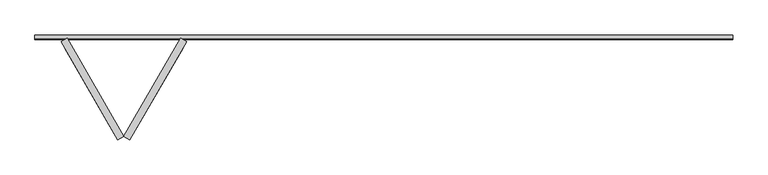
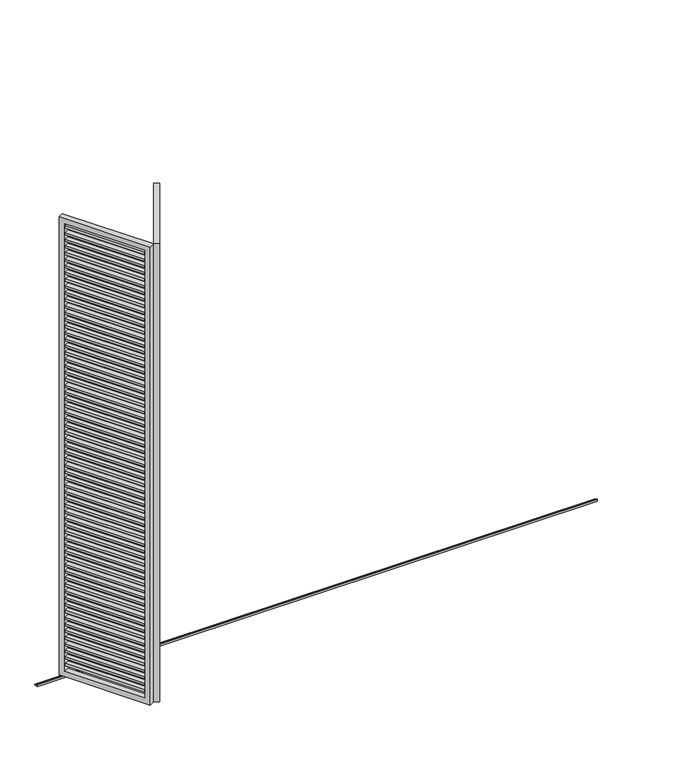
"""IFC4 building model written with IfcOpenShell, lengths in millimetres: proxy geometry, Renson_Amani_Loggia_Plano_Folding : Renson_Amani_Loggia_Plano_Folding."""

from ifc_helpers import new_model, si_unit, frame, origin, place, context, project, spatial, polyline, outline, extrude, source, transform, mapped, element, save


def generic_models_0fea99e4(model_context):
    return source(origin(), model_context, "Body", "SweptSolid", [
        extrude(outline(polyline([(667.6721051, 546.5254963), (696.2509434, 530.0254963), (411.2509434, 36.3910162), (382.6721051, 52.8910162), (667.6721051, 546.5254963)])), frame((0.0, 0.0, 2877.0), z_axis=(0.0, 0.0, 1.0), x_axis=(1.0, 0.0, 0.0)), (0.0, 0.0, 1.0), 16.0),
        extrude(outline(polyline([(667.6721051, 546.5254963), (696.2509434, 530.0254963), (411.2509434, 36.3910162), (382.6721051, 52.8910162), (667.6721051, 546.5254963)])), frame((0.0, 0.0, 2827.0), z_axis=(0.0, 0.0, 1.0), x_axis=(1.0, 0.0, 0.0)), (0.0, 0.0, 1.0), 16.0),
        extrude(outline(polyline([(667.6721051, 546.5254963), (696.2509434, 530.0254963), (411.2509434, 36.3910162), (382.6721051, 52.8910162), (667.6721051, 546.5254963)])), frame((0.0, 0.0, 2777.0), z_axis=(0.0, 0.0, 1.0), x_axis=(1.0, 0.0, 0.0)), (0.0, 0.0, 1.0), 16.0),
        extrude(outline(polyline([(667.6721051, 546.5254963), (696.2509434, 530.0254963), (411.2509434, 36.3910162), (382.6721051, 52.8910162), (667.6721051, 546.5254963)])), frame((0.0, 0.0, 2727.0), z_axis=(0.0, 0.0, 1.0), x_axis=(1.0, 0.0, 0.0)), (0.0, 0.0, 1.0), 16.0),
        extrude(outline(polyline([(667.6721051, 546.5254963), (696.2509434, 530.0254963), (411.2509434, 36.3910162), (382.6721051, 52.8910162), (667.6721051, 546.5254963)])), frame((0.0, 0.0, 2677.0), z_axis=(0.0, 0.0, 1.0), x_axis=(1.0, 0.0, 0.0)), (0.0, 0.0, 1.0), 16.0),
        extrude(outline(polyline([(667.6721051, 546.5254963), (696.2509434, 530.0254963), (411.2509434, 36.3910162), (382.6721051, 52.8910162), (667.6721051, 546.5254963)])), frame((0.0, 0.0, 2627.0), z_axis=(0.0, 0.0, 1.0), x_axis=(1.0, 0.0, 0.0)), (0.0, 0.0, 1.0), 16.0),
        extrude(outline(polyline([(667.6721051, 546.5254963), (696.2509434, 530.0254963), (411.2509434, 36.3910162), (382.6721051, 52.8910162), (667.6721051, 546.5254963)])), frame((0.0, 0.0, 2577.0), z_axis=(0.0, 0.0, 1.0), x_axis=(1.0, 0.0, 0.0)), (0.0, 0.0, 1.0), 16.0),
        extrude(outline(polyline([(667.6721051, 546.5254963), (696.2509434, 530.0254963), (411.2509434, 36.3910162), (382.6721051, 52.8910162), (667.6721051, 546.5254963)])), frame((0.0, 0.0, 2527.0), z_axis=(0.0, 0.0, 1.0), x_axis=(1.0, 0.0, 0.0)), (0.0, 0.0, 1.0), 16.0),
        extrude(outline(polyline([(667.6721051, 546.5254963), (696.2509434, 530.0254963), (411.2509434, 36.3910162), (382.6721051, 52.8910162), (667.6721051, 546.5254963)])), frame((0.0, 0.0, 2477.0), z_axis=(0.0, 0.0, 1.0), x_axis=(1.0, 0.0, 0.0)), (0.0, 0.0, 1.0), 16.0),
        extrude(outline(polyline([(667.6721051, 546.5254963), (696.2509434, 530.0254963), (411.2509434, 36.3910162), (382.6721051, 52.8910162), (667.6721051, 546.5254963)])), frame((0.0, 0.0, 2427.0), z_axis=(0.0, 0.0, 1.0), x_axis=(1.0, 0.0, 0.0)), (0.0, 0.0, 1.0), 16.0),
        extrude(outline(polyline([(667.6721051, 546.5254963), (696.2509434, 530.0254963), (411.2509434, 36.3910162), (382.6721051, 52.8910162), (667.6721051, 546.5254963)])), frame((0.0, 0.0, 2377.0), z_axis=(0.0, 0.0, 1.0), x_axis=(1.0, 0.0, 0.0)), (0.0, 0.0, 1.0), 16.0),
        extrude(outline(polyline([(667.6721051, 546.5254963), (696.2509434, 530.0254963), (411.2509434, 36.3910162), (382.6721051, 52.8910162), (667.6721051, 546.5254963)])), frame((0.0, 0.0, 2327.0), z_axis=(0.0, 0.0, 1.0), x_axis=(1.0, 0.0, 0.0)), (0.0, 0.0, 1.0), 16.0),
        extrude(outline(polyline([(667.6721051, 546.5254963), (696.2509434, 530.0254963), (411.2509434, 36.3910162), (382.6721051, 52.8910162), (667.6721051, 546.5254963)])), frame((0.0, 0.0, 2277.0), z_axis=(0.0, 0.0, 1.0), x_axis=(1.0, 0.0, 0.0)), (0.0, 0.0, 1.0), 16.0),
        extrude(outline(polyline([(667.6721051, 546.5254963), (696.2509434, 530.0254963), (411.2509434, 36.3910162), (382.6721051, 52.8910162), (667.6721051, 546.5254963)])), frame((0.0, 0.0, 2227.0), z_axis=(0.0, 0.0, 1.0), x_axis=(1.0, 0.0, 0.0)), (0.0, 0.0, 1.0), 16.0),
        extrude(outline(polyline([(667.6721051, 546.5254963), (696.2509434, 530.0254963), (411.2509434, 36.3910162), (382.6721051, 52.8910162), (667.6721051, 546.5254963)])), frame((0.0, 0.0, 2177.0), z_axis=(0.0, 0.0, 1.0), x_axis=(1.0, 0.0, 0.0)), (0.0, 0.0, 1.0), 16.0),
        extrude(outline(polyline([(667.6721051, 546.5254963), (696.2509434, 530.0254963), (411.2509434, 36.3910162), (382.6721051, 52.8910162), (667.6721051, 546.5254963)])), frame((0.0, 0.0, 2127.0), z_axis=(0.0, 0.0, 1.0), x_axis=(1.0, 0.0, 0.0)), (0.0, 0.0, 1.0), 16.0),
        extrude(outline(polyline([(667.6721051, 546.5254963), (696.2509434, 530.0254963), (411.2509434, 36.3910162), (382.6721051, 52.8910162), (667.6721051, 546.5254963)])), frame((0.0, 0.0, 2077.0), z_axis=(0.0, 0.0, 1.0), x_axis=(1.0, 0.0, 0.0)), (0.0, 0.0, 1.0), 16.0),
        extrude(outline(polyline([(667.6721051, 546.5254963), (696.2509434, 530.0254963), (411.2509434, 36.3910162), (382.6721051, 52.8910162), (667.6721051, 546.5254963)])), frame((0.0, 0.0, 2027.0), z_axis=(0.0, 0.0, 1.0), x_axis=(1.0, 0.0, 0.0)), (0.0, 0.0, 1.0), 16.0),
        extrude(outline(polyline([(667.6721051, 546.5254963), (696.2509434, 530.0254963), (411.2509434, 36.3910162), (382.6721051, 52.8910162), (667.6721051, 546.5254963)])), frame((0.0, 0.0, 1977.0), z_axis=(0.0, 0.0, 1.0), x_axis=(1.0, 0.0, 0.0)), (0.0, 0.0, 1.0), 16.0),
        extrude(outline(polyline([(667.6721051, 546.5254963), (696.2509434, 530.0254963), (411.2509434, 36.3910162), (382.6721051, 52.8910162), (667.6721051, 546.5254963)])), frame((0.0, 0.0, 1927.0), z_axis=(0.0, 0.0, 1.0), x_axis=(1.0, 0.0, 0.0)), (0.0, 0.0, 1.0), 16.0),
        extrude(outline(polyline([(667.6721051, 546.5254963), (696.2509434, 530.0254963), (411.2509434, 36.3910162), (382.6721051, 52.8910162), (667.6721051, 546.5254963)])), frame((0.0, 0.0, 1877.0), z_axis=(0.0, 0.0, 1.0), x_axis=(1.0, 0.0, 0.0)), (0.0, 0.0, 1.0), 16.0),
        extrude(outline(polyline([(667.6721051, 546.5254963), (696.2509434, 530.0254963), (411.2509434, 36.3910162), (382.6721051, 52.8910162), (667.6721051, 546.5254963)])), frame((0.0, 0.0, 1827.0), z_axis=(0.0, 0.0, 1.0), x_axis=(1.0, 0.0, 0.0)), (0.0, 0.0, 1.0), 16.0),
        extrude(outline(polyline([(667.6721051, 546.5254963), (696.2509434, 530.0254963), (411.2509434, 36.3910162), (382.6721051, 52.8910162), (667.6721051, 546.5254963)])), frame((0.0, 0.0, 1777.0), z_axis=(0.0, 0.0, 1.0), x_axis=(1.0, 0.0, 0.0)), (0.0, 0.0, 1.0), 16.0),
        extrude(outline(polyline([(667.6721051, 546.5254963), (696.2509434, 530.0254963), (411.2509434, 36.3910162), (382.6721051, 52.8910162), (667.6721051, 546.5254963)])), frame((0.0, 0.0, 1727.0), z_axis=(0.0, 0.0, 1.0), x_axis=(1.0, 0.0, 0.0)), (0.0, 0.0, 1.0), 16.0),
        extrude(outline(polyline([(667.6721051, 546.5254963), (696.2509434, 530.0254963), (411.2509434, 36.3910162), (382.6721051, 52.8910162), (667.6721051, 546.5254963)])), frame((0.0, 0.0, 1677.0), z_axis=(0.0, 0.0, 1.0), x_axis=(1.0, 0.0, 0.0)), (0.0, 0.0, 1.0), 16.0),
        extrude(outline(polyline([(667.6721051, 546.5254963), (696.2509434, 530.0254963), (411.2509434, 36.3910162), (382.6721051, 52.8910162), (667.6721051, 546.5254963)])), frame((0.0, 0.0, 1627.0), z_axis=(0.0, 0.0, 1.0), x_axis=(1.0, 0.0, 0.0)), (0.0, 0.0, 1.0), 16.0),
        extrude(outline(polyline([(667.6721051, 546.5254963), (696.2509434, 530.0254963), (411.2509434, 36.3910162), (382.6721051, 52.8910162), (667.6721051, 546.5254963)])), frame((0.0, 0.0, 1577.0), z_axis=(0.0, 0.0, 1.0), x_axis=(1.0, 0.0, 0.0)), (0.0, 0.0, 1.0), 16.0),
        extrude(outline(polyline([(667.6721051, 546.5254963), (696.2509434, 530.0254963), (411.2509434, 36.3910162), (382.6721051, 52.8910162), (667.6721051, 546.5254963)])), frame((0.0, 0.0, 1527.0), z_axis=(0.0, 0.0, 1.0), x_axis=(1.0, 0.0, 0.0)), (0.0, 0.0, 1.0), 16.0),
        extrude(outline(polyline([(667.6721051, 546.5254963), (696.2509434, 530.0254963), (411.2509434, 36.3910162), (382.6721051, 52.8910162), (667.6721051, 546.5254963)])), frame((0.0, 0.0, 1477.0), z_axis=(0.0, 0.0, 1.0), x_axis=(1.0, 0.0, 0.0)), (0.0, 0.0, 1.0), 16.0),
        extrude(outline(polyline([(667.6721051, 546.5254963), (696.2509434, 530.0254963), (411.2509434, 36.3910162), (382.6721051, 52.8910162), (667.6721051, 546.5254963)])), frame((0.0, 0.0, 1427.0), z_axis=(0.0, 0.0, 1.0), x_axis=(1.0, 0.0, 0.0)), (0.0, 0.0, 1.0), 16.0),
        extrude(outline(polyline([(667.6721051, 546.5254963), (696.2509434, 530.0254963), (411.2509434, 36.3910162), (382.6721051, 52.8910162), (667.6721051, 546.5254963)])), frame((0.0, 0.0, 1377.0), z_axis=(0.0, 0.0, 1.0), x_axis=(1.0, 0.0, 0.0)), (0.0, 0.0, 1.0), 16.0),
        extrude(outline(polyline([(667.6721051, 546.5254963), (696.2509434, 530.0254963), (411.2509434, 36.3910162), (382.6721051, 52.8910162), (667.6721051, 546.5254963)])), frame((0.0, 0.0, 1327.0), z_axis=(0.0, 0.0, 1.0), x_axis=(1.0, 0.0, 0.0)), (0.0, 0.0, 1.0), 16.0),
        extrude(outline(polyline([(667.6721051, 546.5254963), (696.2509434, 530.0254963), (411.2509434, 36.3910162), (382.6721051, 52.8910162), (667.6721051, 546.5254963)])), frame((0.0, 0.0, 1277.0), z_axis=(0.0, 0.0, 1.0), x_axis=(1.0, 0.0, 0.0)), (0.0, 0.0, 1.0), 16.0),
        extrude(outline(polyline([(667.6721051, 546.5254963), (696.2509434, 530.0254963), (411.2509434, 36.3910162), (382.6721051, 52.8910162), (667.6721051, 546.5254963)])), frame((0.0, 0.0, 1227.0), z_axis=(0.0, 0.0, 1.0), x_axis=(1.0, 0.0, 0.0)), (0.0, 0.0, 1.0), 16.0),
        extrude(outline(polyline([(667.6721051, 546.5254963), (696.2509434, 530.0254963), (411.2509434, 36.3910162), (382.6721051, 52.8910162), (667.6721051, 546.5254963)])), frame((0.0, 0.0, 1177.0), z_axis=(0.0, 0.0, 1.0), x_axis=(1.0, 0.0, 0.0)), (0.0, 0.0, 1.0), 16.0),
        extrude(outline(polyline([(667.6721051, 546.5254963), (696.2509434, 530.0254963), (411.2509434, 36.3910162), (382.6721051, 52.8910162), (667.6721051, 546.5254963)])), frame((0.0, 0.0, 1127.0), z_axis=(0.0, 0.0, 1.0), x_axis=(1.0, 0.0, 0.0)), (0.0, 0.0, 1.0), 16.0),
        extrude(outline(polyline([(667.6721051, 546.5254963), (696.2509434, 530.0254963), (411.2509434, 36.3910162), (382.6721051, 52.8910162), (667.6721051, 546.5254963)])), frame((0.0, 0.0, 1077.0), z_axis=(0.0, 0.0, 1.0), x_axis=(1.0, 0.0, 0.0)), (0.0, 0.0, 1.0), 16.0),
        extrude(outline(polyline([(667.6721051, 546.5254963), (696.2509434, 530.0254963), (411.2509434, 36.3910162), (382.6721051, 52.8910162), (667.6721051, 546.5254963)])), frame((0.0, 0.0, 1027.0), z_axis=(0.0, 0.0, 1.0), x_axis=(1.0, 0.0, 0.0)), (0.0, 0.0, 1.0), 16.0),
        extrude(outline(polyline([(667.6721051, 546.5254963), (696.2509434, 530.0254963), (411.2509434, 36.3910162), (382.6721051, 52.8910162), (667.6721051, 546.5254963)])), frame((0.0, 0.0, 977.0), z_axis=(0.0, 0.0, 1.0), x_axis=(1.0, 0.0, 0.0)), (0.0, 0.0, 1.0), 16.0),
        extrude(outline(polyline([(667.6721051, 546.5254963), (696.2509434, 530.0254963), (411.2509434, 36.3910162), (382.6721051, 52.8910162), (667.6721051, 546.5254963)])), frame((0.0, 0.0, 927.0), z_axis=(0.0, 0.0, 1.0), x_axis=(1.0, 0.0, 0.0)), (0.0, 0.0, 1.0), 16.0),
        extrude(outline(polyline([(667.6721051, 546.5254963), (696.2509434, 530.0254963), (411.2509434, 36.3910162), (382.6721051, 52.8910162), (667.6721051, 546.5254963)])), frame((0.0, 0.0, 877.0), z_axis=(0.0, 0.0, 1.0), x_axis=(1.0, 0.0, 0.0)), (0.0, 0.0, 1.0), 16.0),
        extrude(outline(polyline([(667.6721051, 546.5254963), (696.2509434, 530.0254963), (411.2509434, 36.3910162), (382.6721051, 52.8910162), (667.6721051, 546.5254963)])), frame((0.0, 0.0, 827.0), z_axis=(0.0, 0.0, 1.0), x_axis=(1.0, 0.0, 0.0)), (0.0, 0.0, 1.0), 16.0),
        extrude(outline(polyline([(667.6721051, 546.5254963), (696.2509434, 530.0254963), (411.2509434, 36.3910162), (382.6721051, 52.8910162), (667.6721051, 546.5254963)])), frame((0.0, 0.0, 777.0), z_axis=(0.0, 0.0, 1.0), x_axis=(1.0, 0.0, 0.0)), (0.0, 0.0, 1.0), 16.0),
        extrude(outline(polyline([(667.6721051, 546.5254963), (696.2509434, 530.0254963), (411.2509434, 36.3910162), (382.6721051, 52.8910162), (667.6721051, 546.5254963)])), frame((0.0, 0.0, 727.0), z_axis=(0.0, 0.0, 1.0), x_axis=(1.0, 0.0, 0.0)), (0.0, 0.0, 1.0), 16.0),
        extrude(outline(polyline([(667.6721051, 546.5254963), (696.2509434, 530.0254963), (411.2509434, 36.3910162), (382.6721051, 52.8910162), (667.6721051, 546.5254963)])), frame((0.0, 0.0, 677.0), z_axis=(0.0, 0.0, 1.0), x_axis=(1.0, 0.0, 0.0)), (0.0, 0.0, 1.0), 16.0),
        extrude(outline(polyline([(667.6721051, 546.5254963), (696.2509434, 530.0254963), (411.2509434, 36.3910162), (382.6721051, 52.8910162), (667.6721051, 546.5254963)])), frame((0.0, 0.0, 627.0), z_axis=(0.0, 0.0, 1.0), x_axis=(1.0, 0.0, 0.0)), (0.0, 0.0, 1.0), 16.0),
        extrude(outline(polyline([(667.6721051, 546.5254963), (696.2509434, 530.0254963), (411.2509434, 36.3910162), (382.6721051, 52.8910162), (667.6721051, 546.5254963)])), frame((0.0, 0.0, 577.0), z_axis=(0.0, 0.0, 1.0), x_axis=(1.0, 0.0, 0.0)), (0.0, 0.0, 1.0), 16.0),
        extrude(outline(polyline([(667.6721051, 546.5254963), (696.2509434, 530.0254963), (411.2509434, 36.3910162), (382.6721051, 52.8910162), (667.6721051, 546.5254963)])), frame((0.0, 0.0, 527.0), z_axis=(0.0, 0.0, 1.0), x_axis=(1.0, 0.0, 0.0)), (0.0, 0.0, 1.0), 16.0),
        extrude(outline(polyline([(667.6721051, 546.5254963), (696.2509434, 530.0254963), (411.2509434, 36.3910162), (382.6721051, 52.8910162), (667.6721051, 546.5254963)])), frame((0.0, 0.0, 477.0), z_axis=(0.0, 0.0, 1.0), x_axis=(1.0, 0.0, 0.0)), (0.0, 0.0, 1.0), 16.0),
        extrude(outline(polyline([(667.6721051, 546.5254963), (696.2509434, 530.0254963), (411.2509434, 36.3910162), (382.6721051, 52.8910162), (667.6721051, 546.5254963)])), frame((0.0, 0.0, 427.0), z_axis=(0.0, 0.0, 1.0), x_axis=(1.0, 0.0, 0.0)), (0.0, 0.0, 1.0), 16.0),
        extrude(outline(polyline([(667.6721051, 546.5254963), (696.2509434, 530.0254963), (411.2509434, 36.3910162), (382.6721051, 52.8910162), (667.6721051, 546.5254963)])), frame((0.0, 0.0, 377.0), z_axis=(0.0, 0.0, 1.0), x_axis=(1.0, 0.0, 0.0)), (0.0, 0.0, 1.0), 16.0),
        extrude(outline(polyline([(667.6721051, 546.5254963), (696.2509434, 530.0254963), (411.2509434, 36.3910162), (382.6721051, 52.8910162), (667.6721051, 546.5254963)])), frame((0.0, 0.0, 327.0), z_axis=(0.0, 0.0, 1.0), x_axis=(1.0, 0.0, 0.0)), (0.0, 0.0, 1.0), 16.0),
        extrude(outline(polyline([(667.6721051, 546.5254963), (696.2509434, 530.0254963), (411.2509434, 36.3910162), (382.6721051, 52.8910162), (667.6721051, 546.5254963)])), frame((0.0, 0.0, 277.0), z_axis=(0.0, 0.0, 1.0), x_axis=(1.0, 0.0, 0.0)), (0.0, 0.0, 1.0), 16.0),
        extrude(outline(polyline([(667.6721051, 546.5254963), (696.2509434, 530.0254963), (411.2509434, 36.3910162), (382.6721051, 52.8910162), (667.6721051, 546.5254963)])), frame((0.0, 0.0, 227.0), z_axis=(0.0, 0.0, 1.0), x_axis=(1.0, 0.0, 0.0)), (0.0, 0.0, 1.0), 16.0),
        extrude(outline(polyline([(667.6721051, 546.5254963), (696.2509434, 530.0254963), (411.2509434, 36.3910162), (382.6721051, 52.8910162), (667.6721051, 546.5254963)])), frame((0.0, 0.0, 177.0), z_axis=(0.0, 0.0, 1.0), x_axis=(1.0, 0.0, 0.0)), (0.0, 0.0, 1.0), 16.0),
        extrude(outline(polyline([(667.6721051, 546.5254963), (696.2509434, 530.0254963), (411.2509434, 36.3910162), (382.6721051, 52.8910162), (667.6721051, 546.5254963)])), frame((0.0, 0.0, 127.0), z_axis=(0.0, 0.0, 1.0), x_axis=(1.0, 0.0, 0.0)), (0.0, 0.0, 1.0), 16.0),
        extrude(outline(polyline([(3415.0, -40.0), (-40.0, -40.0), (-40.0, 610.0), (3415.0, 610.0), (3415.0, -40.0)]), holes=[polyline([(3375.0, 570.0), (0.0, 570.0), (0.0, 0.0), (3375.0, 0.0), (3375.0, 570.0)])]), frame((414.2820323, 34.6410162, 85.0), z_axis=(-0.8660254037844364, 0.5000000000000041, 0.0), x_axis=(0.0, 0.0, 1.0)), (0.0, 0.0, 1.0), 40.0),
        extrude(outline(polyline([(336.6099272, 52.8910162), (308.0310889, 36.3910162), (23.0310889, 530.0254963), (51.6099272, 546.5254963), (336.6099272, 52.8910162)])), frame((0.0, 0.0, 3427.0), z_axis=(0.0, 0.0, 1.0), x_axis=(1.0, 0.0, 0.0)), (0.0, 0.0, 1.0), 16.0),
        extrude(outline(polyline([(336.6099272, 52.8910162), (308.0310889, 36.3910162), (23.0310889, 530.0254963), (51.6099272, 546.5254963), (336.6099272, 52.8910162)])), frame((0.0, 0.0, 3377.0), z_axis=(0.0, 0.0, 1.0), x_axis=(1.0, 0.0, 0.0)), (0.0, 0.0, 1.0), 16.0),
        extrude(outline(polyline([(336.6099272, 52.8910162), (308.0310889, 36.3910162), (23.0310889, 530.0254963), (51.6099272, 546.5254963), (336.6099272, 52.8910162)])), frame((0.0, 0.0, 3327.0), z_axis=(0.0, 0.0, 1.0), x_axis=(1.0, 0.0, 0.0)), (0.0, 0.0, 1.0), 16.0),
        extrude(outline(polyline([(336.6099272, 52.8910162), (308.0310889, 36.3910162), (23.0310889, 530.0254963), (51.6099272, 546.5254963), (336.6099272, 52.8910162)])), frame((0.0, 0.0, 3277.0), z_axis=(0.0, 0.0, 1.0), x_axis=(1.0, 0.0, 0.0)), (0.0, 0.0, 1.0), 16.0),
        extrude(outline(polyline([(336.6099272, 52.8910162), (308.0310889, 36.3910162), (23.0310889, 530.0254963), (51.6099272, 546.5254963), (336.6099272, 52.8910162)])), frame((0.0, 0.0, 3227.0), z_axis=(0.0, 0.0, 1.0), x_axis=(1.0, 0.0, 0.0)), (0.0, 0.0, 1.0), 16.0),
        extrude(outline(polyline([(336.6099272, 52.8910162), (308.0310889, 36.3910162), (23.0310889, 530.0254963), (51.6099272, 546.5254963), (336.6099272, 52.8910162)])), frame((0.0, 0.0, 3177.0), z_axis=(0.0, 0.0, 1.0), x_axis=(1.0, 0.0, 0.0)), (0.0, 0.0, 1.0), 16.0),
        extrude(outline(polyline([(336.6099272, 52.8910162), (308.0310889, 36.3910162), (23.0310889, 530.0254963), (51.6099272, 546.5254963), (336.6099272, 52.8910162)])), frame((0.0, 0.0, 3127.0), z_axis=(0.0, 0.0, 1.0), x_axis=(1.0, 0.0, 0.0)), (0.0, 0.0, 1.0), 16.0),
        extrude(outline(polyline([(336.6099272, 52.8910162), (308.0310889, 36.3910162), (23.0310889, 530.0254963), (51.6099272, 546.5254963), (336.6099272, 52.8910162)])), frame((0.0, 0.0, 3077.0), z_axis=(0.0, 0.0, 1.0), x_axis=(1.0, 0.0, 0.0)), (0.0, 0.0, 1.0), 16.0),
        extrude(outline(polyline([(336.6099272, 52.8910162), (308.0310889, 36.3910162), (23.0310889, 530.0254963), (51.6099272, 546.5254963), (336.6099272, 52.8910162)])), frame((0.0, 0.0, 3027.0), z_axis=(0.0, 0.0, 1.0), x_axis=(1.0, 0.0, 0.0)), (0.0, 0.0, 1.0), 16.0),
        extrude(outline(polyline([(336.6099272, 52.8910162), (308.0310889, 36.3910162), (23.0310889, 530.0254963), (51.6099272, 546.5254963), (336.6099272, 52.8910162)])), frame((0.0, 0.0, 2977.0), z_axis=(0.0, 0.0, 1.0), x_axis=(1.0, 0.0, 0.0)), (0.0, 0.0, 1.0), 16.0),
        extrude(outline(polyline([(336.6099272, 52.8910162), (308.0310889, 36.3910162), (23.0310889, 530.0254963), (51.6099272, 546.5254963), (336.6099272, 52.8910162)])), frame((0.0, 0.0, 2927.0), z_axis=(0.0, 0.0, 1.0), x_axis=(1.0, 0.0, 0.0)), (0.0, 0.0, 1.0), 16.0),
        extrude(outline(polyline([(336.6099272, 52.8910162), (308.0310889, 36.3910162), (23.0310889, 530.0254963), (51.6099272, 546.5254963), (336.6099272, 52.8910162)])), frame((0.0, 0.0, 2877.0), z_axis=(0.0, 0.0, 1.0), x_axis=(1.0, 0.0, 0.0)), (0.0, 0.0, 1.0), 16.0),
        extrude(outline(polyline([(336.6099272, 52.8910162), (308.0310889, 36.3910162), (23.0310889, 530.0254963), (51.6099272, 546.5254963), (336.6099272, 52.8910162)])), frame((0.0, 0.0, 2827.0), z_axis=(0.0, 0.0, 1.0), x_axis=(1.0, 0.0, 0.0)), (0.0, 0.0, 1.0), 16.0),
        extrude(outline(polyline([(336.6099272, 52.8910162), (308.0310889, 36.3910162), (23.0310889, 530.0254963), (51.6099272, 546.5254963), (336.6099272, 52.8910162)])), frame((0.0, 0.0, 2777.0), z_axis=(0.0, 0.0, 1.0), x_axis=(1.0, 0.0, 0.0)), (0.0, 0.0, 1.0), 16.0),
        extrude(outline(polyline([(336.6099272, 52.8910162), (308.0310889, 36.3910162), (23.0310889, 530.0254963), (51.6099272, 546.5254963), (336.6099272, 52.8910162)])), frame((0.0, 0.0, 2727.0), z_axis=(0.0, 0.0, 1.0), x_axis=(1.0, 0.0, 0.0)), (0.0, 0.0, 1.0), 16.0),
        extrude(outline(polyline([(336.6099272, 52.8910162), (308.0310889, 36.3910162), (23.0310889, 530.0254963), (51.6099272, 546.5254963), (336.6099272, 52.8910162)])), frame((0.0, 0.0, 2677.0), z_axis=(0.0, 0.0, 1.0), x_axis=(1.0, 0.0, 0.0)), (0.0, 0.0, 1.0), 16.0),
        extrude(outline(polyline([(336.6099272, 52.8910162), (308.0310889, 36.3910162), (23.0310889, 530.0254963), (51.6099272, 546.5254963), (336.6099272, 52.8910162)])), frame((0.0, 0.0, 2627.0), z_axis=(0.0, 0.0, 1.0), x_axis=(1.0, 0.0, 0.0)), (0.0, 0.0, 1.0), 16.0),
        extrude(outline(polyline([(336.6099272, 52.8910162), (308.0310889, 36.3910162), (23.0310889, 530.0254963), (51.6099272, 546.5254963), (336.6099272, 52.8910162)])), frame((0.0, 0.0, 2577.0), z_axis=(0.0, 0.0, 1.0), x_axis=(1.0, 0.0, 0.0)), (0.0, 0.0, 1.0), 16.0),
        extrude(outline(polyline([(336.6099272, 52.8910162), (308.0310889, 36.3910162), (23.0310889, 530.0254963), (51.6099272, 546.5254963), (336.6099272, 52.8910162)])), frame((0.0, 0.0, 2527.0), z_axis=(0.0, 0.0, 1.0), x_axis=(1.0, 0.0, 0.0)), (0.0, 0.0, 1.0), 16.0),
        extrude(outline(polyline([(336.6099272, 52.8910162), (308.0310889, 36.3910162), (23.0310889, 530.0254963), (51.6099272, 546.5254963), (336.6099272, 52.8910162)])), frame((0.0, 0.0, 2477.0), z_axis=(0.0, 0.0, 1.0), x_axis=(1.0, 0.0, 0.0)), (0.0, 0.0, 1.0), 16.0),
        extrude(outline(polyline([(336.6099272, 52.8910162), (308.0310889, 36.3910162), (23.0310889, 530.0254963), (51.6099272, 546.5254963), (336.6099272, 52.8910162)])), frame((0.0, 0.0, 2427.0), z_axis=(0.0, 0.0, 1.0), x_axis=(1.0, 0.0, 0.0)), (0.0, 0.0, 1.0), 16.0),
        extrude(outline(polyline([(336.6099272, 52.8910162), (308.0310889, 36.3910162), (23.0310889, 530.0254963), (51.6099272, 546.5254963), (336.6099272, 52.8910162)])), frame((0.0, 0.0, 2377.0), z_axis=(0.0, 0.0, 1.0), x_axis=(1.0, 0.0, 0.0)), (0.0, 0.0, 1.0), 16.0),
        extrude(outline(polyline([(336.6099272, 52.8910162), (308.0310889, 36.3910162), (23.0310889, 530.0254963), (51.6099272, 546.5254963), (336.6099272, 52.8910162)])), frame((0.0, 0.0, 2327.0), z_axis=(0.0, 0.0, 1.0), x_axis=(1.0, 0.0, 0.0)), (0.0, 0.0, 1.0), 16.0),
        extrude(outline(polyline([(336.6099272, 52.8910162), (308.0310889, 36.3910162), (23.0310889, 530.0254963), (51.6099272, 546.5254963), (336.6099272, 52.8910162)])), frame((0.0, 0.0, 2277.0), z_axis=(0.0, 0.0, 1.0), x_axis=(1.0, 0.0, 0.0)), (0.0, 0.0, 1.0), 16.0),
        extrude(outline(polyline([(336.6099272, 52.8910162), (308.0310889, 36.3910162), (23.0310889, 530.0254963), (51.6099272, 546.5254963), (336.6099272, 52.8910162)])), frame((0.0, 0.0, 2227.0), z_axis=(0.0, 0.0, 1.0), x_axis=(1.0, 0.0, 0.0)), (0.0, 0.0, 1.0), 16.0),
        extrude(outline(polyline([(336.6099272, 52.8910162), (308.0310889, 36.3910162), (23.0310889, 530.0254963), (51.6099272, 546.5254963), (336.6099272, 52.8910162)])), frame((0.0, 0.0, 2177.0), z_axis=(0.0, 0.0, 1.0), x_axis=(1.0, 0.0, 0.0)), (0.0, 0.0, 1.0), 16.0),
        extrude(outline(polyline([(336.6099272, 52.8910162), (308.0310889, 36.3910162), (23.0310889, 530.0254963), (51.6099272, 546.5254963), (336.6099272, 52.8910162)])), frame((0.0, 0.0, 2127.0), z_axis=(0.0, 0.0, 1.0), x_axis=(1.0, 0.0, 0.0)), (0.0, 0.0, 1.0), 16.0),
        extrude(outline(polyline([(336.6099272, 52.8910162), (308.0310889, 36.3910162), (23.0310889, 530.0254963), (51.6099272, 546.5254963), (336.6099272, 52.8910162)])), frame((0.0, 0.0, 2077.0), z_axis=(0.0, 0.0, 1.0), x_axis=(1.0, 0.0, 0.0)), (0.0, 0.0, 1.0), 16.0),
        extrude(outline(polyline([(336.6099272, 52.8910162), (308.0310889, 36.3910162), (23.0310889, 530.0254963), (51.6099272, 546.5254963), (336.6099272, 52.8910162)])), frame((0.0, 0.0, 2027.0), z_axis=(0.0, 0.0, 1.0), x_axis=(1.0, 0.0, 0.0)), (0.0, 0.0, 1.0), 16.0),
        extrude(outline(polyline([(336.6099272, 52.8910162), (308.0310889, 36.3910162), (23.0310889, 530.0254963), (51.6099272, 546.5254963), (336.6099272, 52.8910162)])), frame((0.0, 0.0, 1977.0), z_axis=(0.0, 0.0, 1.0), x_axis=(1.0, 0.0, 0.0)), (0.0, 0.0, 1.0), 16.0),
        extrude(outline(polyline([(336.6099272, 52.8910162), (308.0310889, 36.3910162), (23.0310889, 530.0254963), (51.6099272, 546.5254963), (336.6099272, 52.8910162)])), frame((0.0, 0.0, 1927.0), z_axis=(0.0, 0.0, 1.0), x_axis=(1.0, 0.0, 0.0)), (0.0, 0.0, 1.0), 16.0),
        extrude(outline(polyline([(336.6099272, 52.8910162), (308.0310889, 36.3910162), (23.0310889, 530.0254963), (51.6099272, 546.5254963), (336.6099272, 52.8910162)])), frame((0.0, 0.0, 1877.0), z_axis=(0.0, 0.0, 1.0), x_axis=(1.0, 0.0, 0.0)), (0.0, 0.0, 1.0), 16.0),
        extrude(outline(polyline([(336.6099272, 52.8910162), (308.0310889, 36.3910162), (23.0310889, 530.0254963), (51.6099272, 546.5254963), (336.6099272, 52.8910162)])), frame((0.0, 0.0, 1827.0), z_axis=(0.0, 0.0, 1.0), x_axis=(1.0, 0.0, 0.0)), (0.0, 0.0, 1.0), 16.0),
        extrude(outline(polyline([(336.6099272, 52.8910162), (308.0310889, 36.3910162), (23.0310889, 530.0254963), (51.6099272, 546.5254963), (336.6099272, 52.8910162)])), frame((0.0, 0.0, 1777.0), z_axis=(0.0, 0.0, 1.0), x_axis=(1.0, 0.0, 0.0)), (0.0, 0.0, 1.0), 16.0),
        extrude(outline(polyline([(336.6099272, 52.8910162), (308.0310889, 36.3910162), (23.0310889, 530.0254963), (51.6099272, 546.5254963), (336.6099272, 52.8910162)])), frame((0.0, 0.0, 1727.0), z_axis=(0.0, 0.0, 1.0), x_axis=(1.0, 0.0, 0.0)), (0.0, 0.0, 1.0), 16.0),
        extrude(outline(polyline([(336.6099272, 52.8910162), (308.0310889, 36.3910162), (23.0310889, 530.0254963), (51.6099272, 546.5254963), (336.6099272, 52.8910162)])), frame((0.0, 0.0, 1677.0), z_axis=(0.0, 0.0, 1.0), x_axis=(1.0, 0.0, 0.0)), (0.0, 0.0, 1.0), 16.0),
        extrude(outline(polyline([(336.6099272, 52.8910162), (308.0310889, 36.3910162), (23.0310889, 530.0254963), (51.6099272, 546.5254963), (336.6099272, 52.8910162)])), frame((0.0, 0.0, 1627.0), z_axis=(0.0, 0.0, 1.0), x_axis=(1.0, 0.0, 0.0)), (0.0, 0.0, 1.0), 16.0),
        extrude(outline(polyline([(336.6099272, 52.8910162), (308.0310889, 36.3910162), (23.0310889, 530.0254963), (51.6099272, 546.5254963), (336.6099272, 52.8910162)])), frame((0.0, 0.0, 1577.0), z_axis=(0.0, 0.0, 1.0), x_axis=(1.0, 0.0, 0.0)), (0.0, 0.0, 1.0), 16.0),
        extrude(outline(polyline([(336.6099272, 52.8910162), (308.0310889, 36.3910162), (23.0310889, 530.0254963), (51.6099272, 546.5254963), (336.6099272, 52.8910162)])), frame((0.0, 0.0, 1527.0), z_axis=(0.0, 0.0, 1.0), x_axis=(1.0, 0.0, 0.0)), (0.0, 0.0, 1.0), 16.0),
        extrude(outline(polyline([(336.6099272, 52.8910162), (308.0310889, 36.3910162), (23.0310889, 530.0254963), (51.6099272, 546.5254963), (336.6099272, 52.8910162)])), frame((0.0, 0.0, 1477.0), z_axis=(0.0, 0.0, 1.0), x_axis=(1.0, 0.0, 0.0)), (0.0, 0.0, 1.0), 16.0),
        extrude(outline(polyline([(336.6099272, 52.8910162), (308.0310889, 36.3910162), (23.0310889, 530.0254963), (51.6099272, 546.5254963), (336.6099272, 52.8910162)])), frame((0.0, 0.0, 1427.0), z_axis=(0.0, 0.0, 1.0), x_axis=(1.0, 0.0, 0.0)), (0.0, 0.0, 1.0), 16.0),
        extrude(outline(polyline([(336.6099272, 52.8910162), (308.0310889, 36.3910162), (23.0310889, 530.0254963), (51.6099272, 546.5254963), (336.6099272, 52.8910162)])), frame((0.0, 0.0, 1377.0), z_axis=(0.0, 0.0, 1.0), x_axis=(1.0, 0.0, 0.0)), (0.0, 0.0, 1.0), 16.0),
        extrude(outline(polyline([(336.6099272, 52.8910162), (308.0310889, 36.3910162), (23.0310889, 530.0254963), (51.6099272, 546.5254963), (336.6099272, 52.8910162)])), frame((0.0, 0.0, 1327.0), z_axis=(0.0, 0.0, 1.0), x_axis=(1.0, 0.0, 0.0)), (0.0, 0.0, 1.0), 16.0),
        extrude(outline(polyline([(336.6099272, 52.8910162), (308.0310889, 36.3910162), (23.0310889, 530.0254963), (51.6099272, 546.5254963), (336.6099272, 52.8910162)])), frame((0.0, 0.0, 1277.0), z_axis=(0.0, 0.0, 1.0), x_axis=(1.0, 0.0, 0.0)), (0.0, 0.0, 1.0), 16.0),
        extrude(outline(polyline([(336.6099272, 52.8910162), (308.0310889, 36.3910162), (23.0310889, 530.0254963), (51.6099272, 546.5254963), (336.6099272, 52.8910162)])), frame((0.0, 0.0, 1227.0), z_axis=(0.0, 0.0, 1.0), x_axis=(1.0, 0.0, 0.0)), (0.0, 0.0, 1.0), 16.0),
        extrude(outline(polyline([(336.6099272, 52.8910162), (308.0310889, 36.3910162), (23.0310889, 530.0254963), (51.6099272, 546.5254963), (336.6099272, 52.8910162)])), frame((0.0, 0.0, 1177.0), z_axis=(0.0, 0.0, 1.0), x_axis=(1.0, 0.0, 0.0)), (0.0, 0.0, 1.0), 16.0),
        extrude(outline(polyline([(336.6099272, 52.8910162), (308.0310889, 36.3910162), (23.0310889, 530.0254963), (51.6099272, 546.5254963), (336.6099272, 52.8910162)])), frame((0.0, 0.0, 1127.0), z_axis=(0.0, 0.0, 1.0), x_axis=(1.0, 0.0, 0.0)), (0.0, 0.0, 1.0), 16.0),
        extrude(outline(polyline([(336.6099272, 52.8910162), (308.0310889, 36.3910162), (23.0310889, 530.0254963), (51.6099272, 546.5254963), (336.6099272, 52.8910162)])), frame((0.0, 0.0, 1077.0), z_axis=(0.0, 0.0, 1.0), x_axis=(1.0, 0.0, 0.0)), (0.0, 0.0, 1.0), 16.0),
        extrude(outline(polyline([(336.6099272, 52.8910162), (308.0310889, 36.3910162), (23.0310889, 530.0254963), (51.6099272, 546.5254963), (336.6099272, 52.8910162)])), frame((0.0, 0.0, 1027.0), z_axis=(0.0, 0.0, 1.0), x_axis=(1.0, 0.0, 0.0)), (0.0, 0.0, 1.0), 16.0),
        extrude(outline(polyline([(336.6099272, 52.8910162), (308.0310889, 36.3910162), (23.0310889, 530.0254963), (51.6099272, 546.5254963), (336.6099272, 52.8910162)])), frame((0.0, 0.0, 977.0), z_axis=(0.0, 0.0, 1.0), x_axis=(1.0, 0.0, 0.0)), (0.0, 0.0, 1.0), 16.0),
        extrude(outline(polyline([(336.6099272, 52.8910162), (308.0310889, 36.3910162), (23.0310889, 530.0254963), (51.6099272, 546.5254963), (336.6099272, 52.8910162)])), frame((0.0, 0.0, 927.0), z_axis=(0.0, 0.0, 1.0), x_axis=(1.0, 0.0, 0.0)), (0.0, 0.0, 1.0), 16.0),
        extrude(outline(polyline([(336.6099272, 52.8910162), (308.0310889, 36.3910162), (23.0310889, 530.0254963), (51.6099272, 546.5254963), (336.6099272, 52.8910162)])), frame((0.0, 0.0, 877.0), z_axis=(0.0, 0.0, 1.0), x_axis=(1.0, 0.0, 0.0)), (0.0, 0.0, 1.0), 16.0),
        extrude(outline(polyline([(336.6099272, 52.8910162), (308.0310889, 36.3910162), (23.0310889, 530.0254963), (51.6099272, 546.5254963), (336.6099272, 52.8910162)])), frame((0.0, 0.0, 827.0), z_axis=(0.0, 0.0, 1.0), x_axis=(1.0, 0.0, 0.0)), (0.0, 0.0, 1.0), 16.0),
        extrude(outline(polyline([(336.6099272, 52.8910162), (308.0310889, 36.3910162), (23.0310889, 530.0254963), (51.6099272, 546.5254963), (336.6099272, 52.8910162)])), frame((0.0, 0.0, 777.0), z_axis=(0.0, 0.0, 1.0), x_axis=(1.0, 0.0, 0.0)), (0.0, 0.0, 1.0), 16.0),
        extrude(outline(polyline([(336.6099272, 52.8910162), (308.0310889, 36.3910162), (23.0310889, 530.0254963), (51.6099272, 546.5254963), (336.6099272, 52.8910162)])), frame((0.0, 0.0, 727.0), z_axis=(0.0, 0.0, 1.0), x_axis=(1.0, 0.0, 0.0)), (0.0, 0.0, 1.0), 16.0),
        extrude(outline(polyline([(336.6099272, 52.8910162), (308.0310889, 36.3910162), (23.0310889, 530.0254963), (51.6099272, 546.5254963), (336.6099272, 52.8910162)])), frame((0.0, 0.0, 677.0), z_axis=(0.0, 0.0, 1.0), x_axis=(1.0, 0.0, 0.0)), (0.0, 0.0, 1.0), 16.0),
        extrude(outline(polyline([(336.6099272, 52.8910162), (308.0310889, 36.3910162), (23.0310889, 530.0254963), (51.6099272, 546.5254963), (336.6099272, 52.8910162)])), frame((0.0, 0.0, 627.0), z_axis=(0.0, 0.0, 1.0), x_axis=(1.0, 0.0, 0.0)), (0.0, 0.0, 1.0), 16.0),
        extrude(outline(polyline([(336.6099272, 52.8910162), (308.0310889, 36.3910162), (23.0310889, 530.0254963), (51.6099272, 546.5254963), (336.6099272, 52.8910162)])), frame((0.0, 0.0, 577.0), z_axis=(0.0, 0.0, 1.0), x_axis=(1.0, 0.0, 0.0)), (0.0, 0.0, 1.0), 16.0),
        extrude(outline(polyline([(336.6099272, 52.8910162), (308.0310889, 36.3910162), (23.0310889, 530.0254963), (51.6099272, 546.5254963), (336.6099272, 52.8910162)])), frame((0.0, 0.0, 527.0), z_axis=(0.0, 0.0, 1.0), x_axis=(1.0, 0.0, 0.0)), (0.0, 0.0, 1.0), 16.0),
        extrude(outline(polyline([(336.6099272, 52.8910162), (308.0310889, 36.3910162), (23.0310889, 530.0254963), (51.6099272, 546.5254963), (336.6099272, 52.8910162)])), frame((0.0, 0.0, 477.0), z_axis=(0.0, 0.0, 1.0), x_axis=(1.0, 0.0, 0.0)), (0.0, 0.0, 1.0), 16.0),
        extrude(outline(polyline([(336.6099272, 52.8910162), (308.0310889, 36.3910162), (23.0310889, 530.0254963), (51.6099272, 546.5254963), (336.6099272, 52.8910162)])), frame((0.0, 0.0, 427.0), z_axis=(0.0, 0.0, 1.0), x_axis=(1.0, 0.0, 0.0)), (0.0, 0.0, 1.0), 16.0),
        extrude(outline(polyline([(336.6099272, 52.8910162), (308.0310889, 36.3910162), (23.0310889, 530.0254963), (51.6099272, 546.5254963), (336.6099272, 52.8910162)])), frame((0.0, 0.0, 377.0), z_axis=(0.0, 0.0, 1.0), x_axis=(1.0, 0.0, 0.0)), (0.0, 0.0, 1.0), 16.0),
        extrude(outline(polyline([(336.6099272, 52.8910162), (308.0310889, 36.3910162), (23.0310889, 530.0254963), (51.6099272, 546.5254963), (336.6099272, 52.8910162)])), frame((0.0, 0.0, 327.0), z_axis=(0.0, 0.0, 1.0), x_axis=(1.0, 0.0, 0.0)), (0.0, 0.0, 1.0), 16.0),
        extrude(outline(polyline([(336.6099272, 52.8910162), (308.0310889, 36.3910162), (23.0310889, 530.0254963), (51.6099272, 546.5254963), (336.6099272, 52.8910162)])), frame((0.0, 0.0, 277.0), z_axis=(0.0, 0.0, 1.0), x_axis=(1.0, 0.0, 0.0)), (0.0, 0.0, 1.0), 16.0),
        extrude(outline(polyline([(336.6099272, 52.8910162), (308.0310889, 36.3910162), (23.0310889, 530.0254963), (51.6099272, 546.5254963), (336.6099272, 52.8910162)])), frame((0.0, 0.0, 227.0), z_axis=(0.0, 0.0, 1.0), x_axis=(1.0, 0.0, 0.0)), (0.0, 0.0, 1.0), 16.0),
        extrude(outline(polyline([(336.6099272, 52.8910162), (308.0310889, 36.3910162), (23.0310889, 530.0254963), (51.6099272, 546.5254963), (336.6099272, 52.8910162)])), frame((0.0, 0.0, 177.0), z_axis=(0.0, 0.0, 1.0), x_axis=(1.0, 0.0, 0.0)), (0.0, 0.0, 1.0), 16.0),
        extrude(outline(polyline([(336.6099272, 52.8910162), (308.0310889, 36.3910162), (23.0310889, 530.0254963), (51.6099272, 546.5254963), (336.6099272, 52.8910162)])), frame((0.0, 0.0, 127.0), z_axis=(0.0, 0.0, 1.0), x_axis=(1.0, 0.0, 0.0)), (0.0, 0.0, 1.0), 16.0),
        extrude(outline(polyline([(3415.0, -40.0), (-40.0, -40.0), (-40.0, 610.0), (3415.0, 610.0), (3415.0, -40.0)]), holes=[polyline([(3375.0, 570.0), (0.0, 570.0), (0.0, 0.0), (3375.0, 0.0), (3375.0, 570.0)])]), frame((20.0, 528.2754963, 85.0), z_axis=(0.8660254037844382, 0.5000000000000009, 0.0), x_axis=(0.0, 0.0, 1.0)), (0.0, 0.0, 1.0), 40.0),
        extrude(outline(polyline([(576.9165125, 15.0), (579.9165125, 15.0), (579.9165125, 3.0), (602.9165125, 3.0), (602.9165125, 0.0), (576.9165125, 0.0), (576.9165125, 15.0)])), frame((-150.0, 0.0, 0.0), z_axis=(1.0, 0.0, 0.0), x_axis=(0.0, 1.0, 0.0)), (0.0, 0.0, 1.0), 4000.0),
    ])


if __name__ == "__main__":
    model = new_model("IFC4")
    model_context = context("Model", 3, world=origin())
    ifc_project = project(units=[si_unit("LENGTHUNIT", "METRE", prefix="MILLI")], contexts=[model_context])
    site = spatial("IfcSite", under=ifc_project)
    building = spatial("IfcBuilding", under=site)
    placement = place(None, origin())
    generic_models_shape = generic_models_0fea99e4(model_context)
    element("IfcBuildingElementProxy", 1, Name="Renson_Amani_Loggia_Plano_Folding : Renson_Amani_Loggia_Plano_Folding", ObjectType="Renson_Amani_Loggia_Plano_Folding : Renson_Amani_Loggia_Plano_Folding", at=placement, inside=building, context=model_context, shape_type="MappedRepresentation", body=[
        mapped(generic_models_shape, transform((0.0, 0.0, 0.0), x_axis=(1.0, 0.0, 0.0), y_axis=(0.0, 1.0, 0.0), z_axis=(0.0, 0.0, 1.0))),
    ])
    save(model, "model.ifc")
